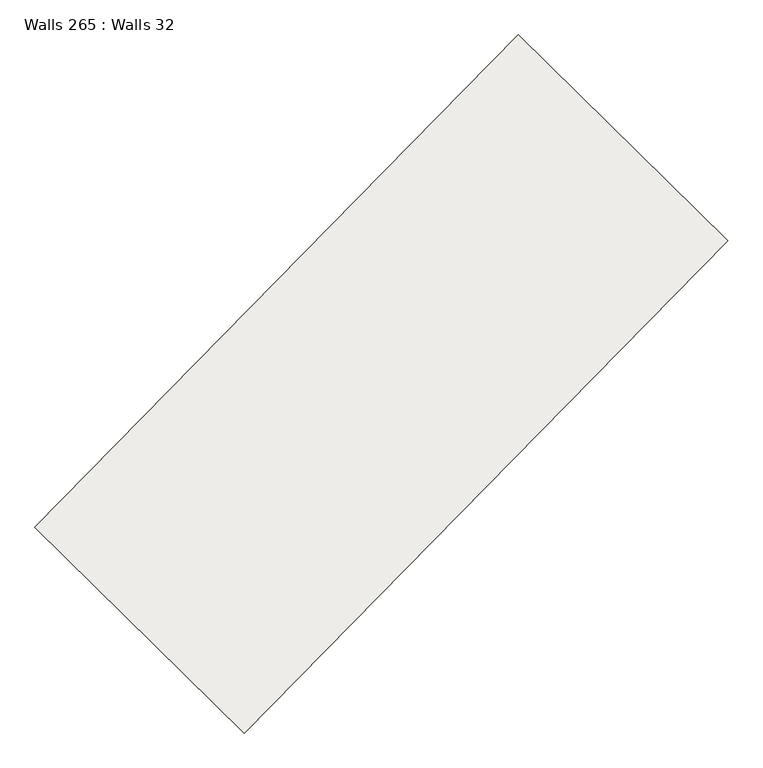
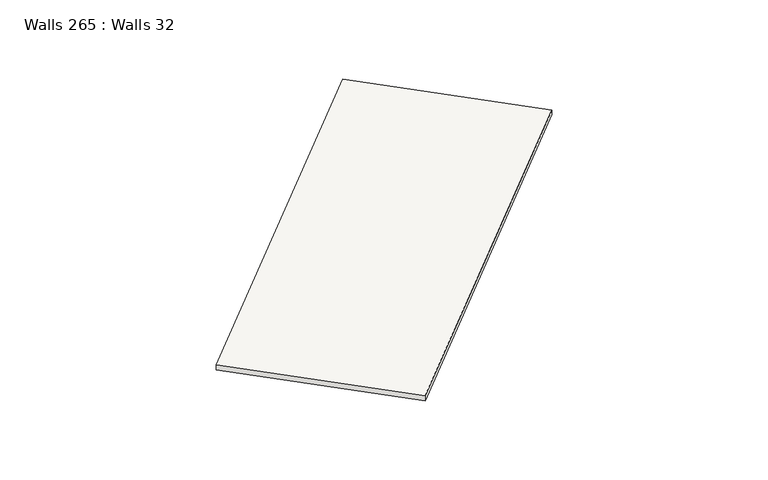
"""IFC4 building model written with IfcOpenShell, lengths in millimetres: slab geometry, Walls 265 : Walls 32."""

from ifc_helpers import new_model, si_unit, frame, origin, place, context, project, spatial, polyline, outline, extrude, source, transform, mapped, element, save


def walls_265_walls_32_7eb7d532(model_context):
    return source(origin(), model_context, "Body", "SweptSolid", [
        extrude(outline(polyline([(-50.0, 0.0), (50.0, 0.0), (-40.0, -8699.9999991), (-140.0, -8699.9999991), (-50.0, 0.0)])), frame((-188852.7277049, -351788.3131712, 635300.0), z_axis=(-0.7136987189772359, 0.7004528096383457, 0.0), x_axis=(0.0, 0.0, 1.0)), (0.0, 0.0, 1.0), 3700.0),
    ])


if __name__ == "__main__":
    model = new_model("IFC4")
    model_context = context("Model", 3, world=origin())
    ifc_project = project(units=[si_unit("LENGTHUNIT", "METRE", prefix="MILLI")], contexts=[model_context])
    site = spatial("IfcSite", under=ifc_project)
    building = spatial("IfcBuilding", under=site)
    placement = place(None, origin())
    walls_265_walls_32_shape = walls_265_walls_32_7eb7d532(model_context)
    element("IfcSlab", 1, ObjectType="Walls 265 : Walls 32", at=placement, inside=building, context=model_context, shape_type="MappedRepresentation", body=[
        mapped(walls_265_walls_32_shape, transform((0.0, 0.0, 0.0), x_axis=(1.0, 0.0, 0.0), y_axis=(0.0, 1.0, 0.0), z_axis=(0.0, 0.0, 1.0))),
    ])
    save(model, "model.ifc")
